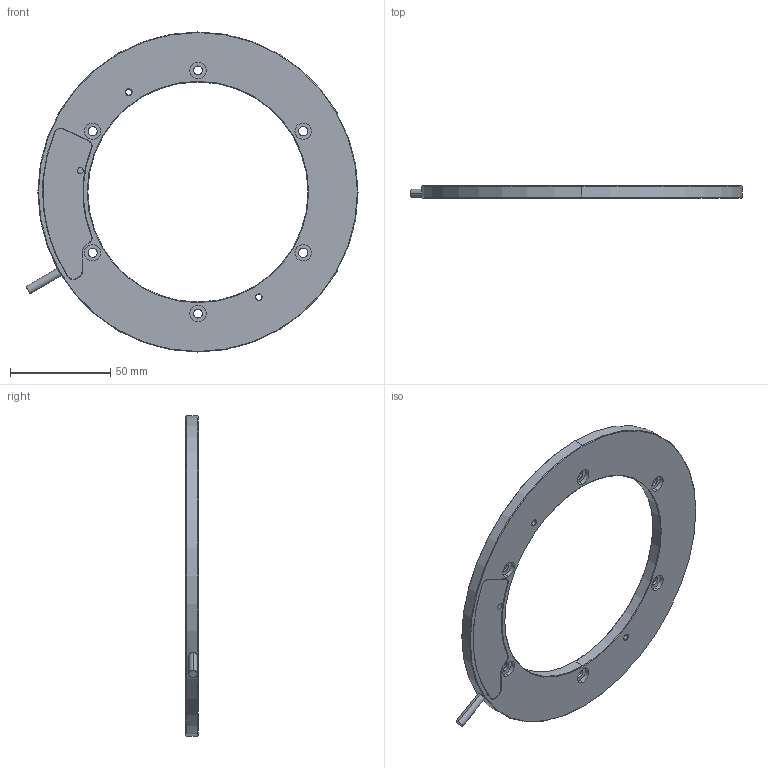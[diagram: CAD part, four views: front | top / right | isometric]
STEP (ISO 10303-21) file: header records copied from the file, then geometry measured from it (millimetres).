
FILE_DESCRIPTION (( 'STEP AP214' ), '1' );
FILE_NAME ('GAS-160-K0x-ST_rev01.STEP', '2023-11-08T13:01:31', ( '' ), ( '' ), 'SwSTEP 2.0', 'SolidWorks 2021', '' );
FILE_SCHEMA (( 'AUTOMOTIVE_DESIGN' ));
Length unit declared in the file: millimetre
Products named in the file (1): GAS-160-K0x-ST_rev01
Bounding box: 165.92 x 6 x 160 mm (x, y, z)
Volume: 61847.2 mm3; surface area: 42707.1 mm2
Topology: 4 solids, 4 shells, 155 faces, 364 edges, 233 vertices
Faces by surface type: cylinder 89, plane 41, cone 25
Entity records: 6367 total; most frequent: DIRECTION 875, CARTESIAN_POINT 812, ORIENTED_EDGE 728, EDGE_CURVE 364, AXIS2_PLACEMENT_3D 358, VERTEX_POINT 233, CIRCLE 202, EDGE_LOOP 191
